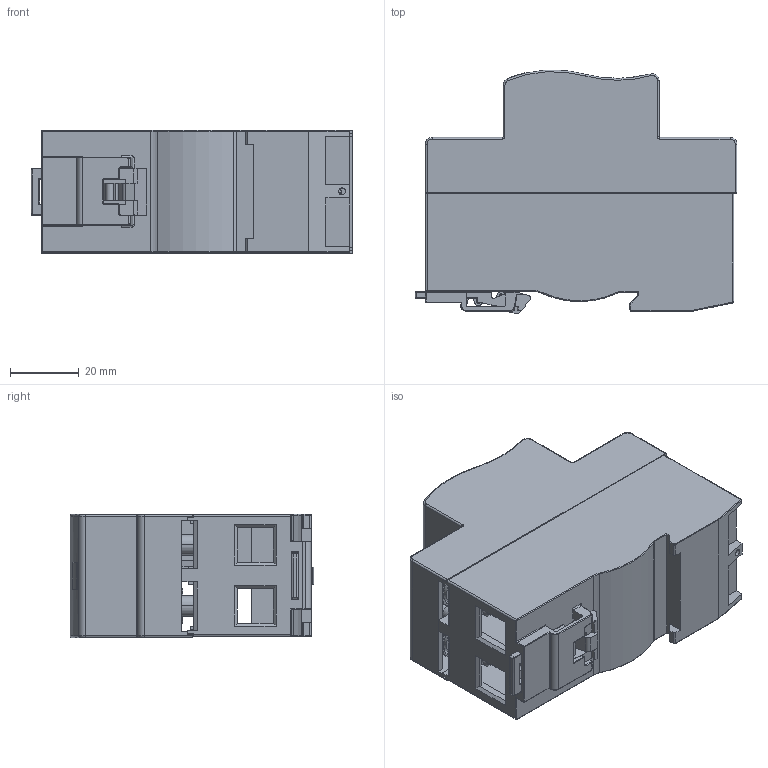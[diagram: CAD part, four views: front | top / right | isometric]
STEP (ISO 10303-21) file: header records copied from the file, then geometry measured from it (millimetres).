
FILE_DESCRIPTION(('CoCreate Modeling STEP Export'),'2;1');
FILE_NAME('dvsb-2.stp','2015-04-29T12:45:29',(''),(''),'CoCreate Modeling STEP processor for AP203 (Solid Model)','CoCreate Modeling 17.0B 09-Oct-2010 (C) Parametric Technology GmbH','');
FILE_SCHEMA(('CONFIG_CONTROL_DESIGN'));
Length unit declared in the file: millimetre
Products named in the file (9): Skin_Group1; p1; p2; p3; p4; p5; p6; p7; dvsb-2
Assembly tree (8 placements, depth 2):
  dvsb-2
    p7
    p6
    p5
    p4
    p3
    p2
    p1
    Skin_Group1
Bounding box: 93.9 x 71.08 x 35.96 mm (x, y, z)
Volume: 42830.3 mm3; surface area: 53621.9 mm2
Topology: 8 solids, 8 shells, 1515 faces, 4179 edges, 2713 vertices
Faces by surface type: plane 1078, cylinder 262, torus 128, cone 16, sphere 16, bspline 15
Entity records: 48947 total; most frequent: CARTESIAN_POINT 9689, ORIENTED_EDGE 8358, DIRECTION 7568, EDGE_CURVE 4179, VECTOR 3238, LINE 3238, VERTEX_POINT 2713, AXIS2_PLACEMENT_3D 2165
